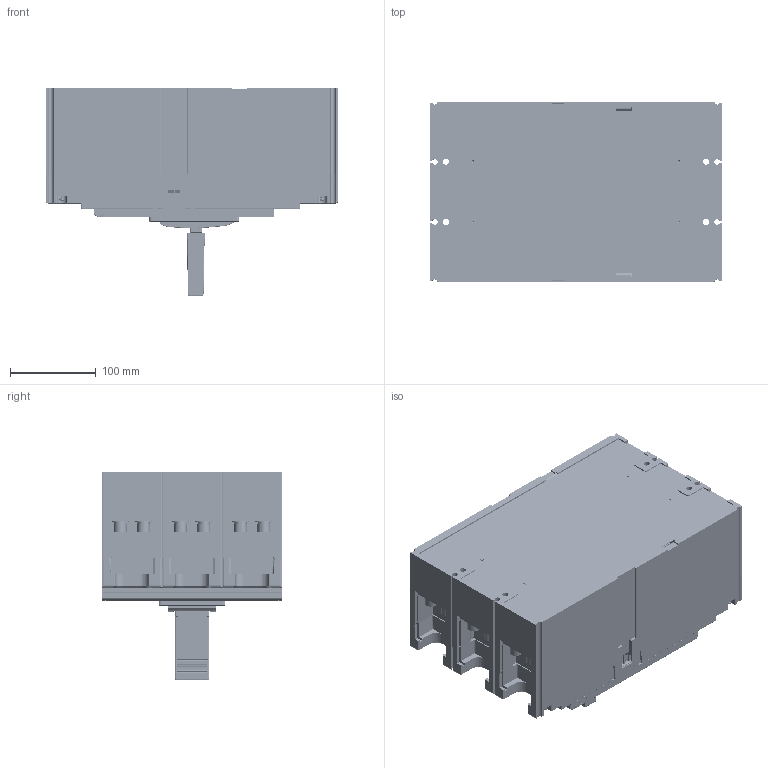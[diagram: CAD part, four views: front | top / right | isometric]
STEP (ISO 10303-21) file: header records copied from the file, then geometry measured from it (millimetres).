
FILE_DESCRIPTION(/* description */ (''),/* implementation_level */ '2;1');
FILE_NAME(/* name */ 'CMM-1600-3P-Drawing-3D.stp',/* time_stamp */ '2025-07-08T09:50:04-03:00',/* author */ ('guilh'),/* organization */ (''),/* preprocessor_version */ 'ST-DEVELOPER v20',/* originating_system */ 'Autodesk Inventor 2024',/* authorisation */ '');
FILE_SCHEMA (('AUTOMOTIVE_DESIGN { 1 0 10303 214 3 1 1 }'));
Products named in the file (51): YCM8-1600-3P-Drawing-3D; YCM8-1600-3P-Drawing-3D.sldasm-Part-1; YCM8-1600-3P-Drawing-3D.sldasm-Part-2; YCM8-1600-3P-Drawing-3D.sldasm-Part-3; PRT0873.stp; PRT0873.stp-1; 207-8STM-865-3805.stp; 61-8STM_751_3801_PRT.stp; 30-5TZM-253-3801.stp; 26-8STM_750_3802_PRT_1_1.stp; 26-8STM_750_3802_PRT_1_1.stp-1; PRT0873.stp-2; 26-8STM_750_3802_PRT_1_1.stp-2; 61-8STM_751_3801_PRT.stp-1; 38-8STM-253-3802.stp; 61-8STM_751_3801_PRT.stp-2; 67-8STM-750-3804.stp; 8STM-550-3818__________10MM__.stp; 67-8STM-750-3804.stp-1; 8STM-550-3818__________10MM__.stp-1; 8STM-550-3818__________10MM__.stp-2; 67-8STM-750-3804.stp-2; 1-5STM-024-3801-1.stp; YCM8-1250-3P-Drawing-3D.sldasm-Part-89; ×°ÅäÌå10^YCM8-1600-3P-Drawing
-3D; ×°ÅäÌå10^YCM8-1600-3P-Drawing
-3D_1; ×°ÅäÌå10^YCM8-1600-3P-Drawing
-3D_2; 54_8STM_776_3801____3P.stp; ×°ÅäÌå10^YCM8-1600-3P-Drawing
-3D_3; ×°ÅäÌå12^YCM8-1600-3P-Drawing
-3D; ×°ÅäÌå12^YCM8-1600-3P-Drawing
-3D_1; ×°ÅäÌå12^YCM8-1600-3P-Drawing
-3D_2; ×°ÅäÌå12^YCM8-1600-3P-Drawing
-3D_3; ×°ÅäÌå12^YCM8-1600-3P-Drawing
-3D_4; ×°ÅäÌå12^YCM8-1600-3P-Drawing
-3D_5; ×°ÅäÌå12^YCM8-1600-3P-Drawing
-3D_6; ×°ÅäÌå12^YCM8-1600-3P-Drawing
-3D_7; ×°ÅäÌå12^YCM8-1600-3P-Drawing
-3D_8; ×°ÅäÌå12^YCM8-1600-3P-Drawing
-3D_9; ×°ÅäÌå12^YCM8-1600-3P-Drawing
-3D_10 ...
Assembly tree (104 placements, depth 3):
  YCM8-1600-3P-Drawing-3D
    YCM8-1600-3P-Drawing-3D.sldasm-Part-1
    YCM8-1600-3P-Drawing-3D.sldasm-Part-2
    YCM8-1600-3P-Drawing-3D.sldasm-Part-3
    PRT0873.stp
    PRT0873.stp-1
    207-8STM-865-3805.stp
    61-8STM_751_3801_PRT.stp
    30-5TZM-253-3801.stp
    26-8STM_750_3802_PRT_1_1.stp
    26-8STM_750_3802_PRT_1_1.stp-1
    PRT0873.stp-2
    26-8STM_750_3802_PRT_1_1.stp-2
    61-8STM_751_3801_PRT.stp-1
    38-8STM-253-3802.stp
    61-8STM_751_3801_PRT.stp-2
    67-8STM-750-3804.stp
    8STM-550-3818__________10MM__.stp
    67-8STM-750-3804.stp-1
    8STM-550-3818__________10MM__.stp-1
    8STM-550-3818__________10MM__.stp-2
    67-8STM-750-3804.stp-2
    1-5STM-024-3801-1.stp
    YCM8-1250-3P-Drawing-3D.sldasm-Part-89
    ×°ÅäÌå10^YCM8-1600-3P-Drawing
-3D
      YCM8-1250-3P-Drawing-3D.sldasm-Part-94
      YCM8-1250-3P-Drawing-3D.sldasm-Part-93
      YCM8-1250-3P-Drawing-3D.sldasm-Part-97
    ×°ÅäÌå10^YCM8-1600-3P-Drawing
-3D_1
      YCM8-1250-3P-Drawing-3D.sldasm-Part-94
      YCM8-1250-3P-Drawing-3D.sldasm-Part-93
      YCM8-1250-3P-Drawing-3D.sldasm-Part-97
    ×°ÅäÌå10^YCM8-1600-3P-Drawing
-3D_2
      YCM8-1250-3P-Drawing-3D.sldasm-Part-94
      YCM8-1250-3P-Drawing-3D.sldasm-Part-93
      YCM8-1250-3P-Drawing-3D.sldasm-Part-97
    54_8STM_776_3801____3P.stp
    ×°ÅäÌå10^YCM8-1600-3P-Drawing
-3D_3
      YCM8-1250-3P-Drawing-3D.sldasm-Part-94
      YCM8-1250-3P-Drawing-3D.sldasm-Part-93
      YCM8-1250-3P-Drawing-3D.sldasm-Part-97
    ×°ÅäÌå12^YCM8-1600-3P-Drawing
-3D
      YCM8-1250-3P-Drawing-3D.sldasm-Part-33
      YCM8-1250-3P-Drawing-3D.sldasm-Part-30
      YCM8-1250-3P-Drawing-3D.sldasm-Part-9
    ×°ÅäÌå12^YCM8-1600-3P-Drawing
-3D_1
      YCM8-1250-3P-Drawing-3D.sldasm-Part-33
      YCM8-1250-3P-Drawing-3D.sldasm-Part-30
      YCM8-1250-3P-Drawing-3D.sldasm-Part-9
    ×°ÅäÌå12^YCM8-1600-3P-Drawing
-3D_2
      YCM8-1250-3P-Drawing-3D.sldasm-Part-33
      YCM8-1250-3P-Drawing-3D.sldasm-Part-30
      YCM8-1250-3P-Drawing-3D.sldasm-Part-9
    ×°ÅäÌå12^YCM8-1600-3P-Drawing
-3D_3
      YCM8-1250-3P-Drawing-3D.sldasm-Part-33
      YCM8-1250-3P-Drawing-3D.sldasm-Part-30
      YCM8-1250-3P-Drawing-3D.sldasm-Part-9
    ×°ÅäÌå12^YCM8-1600-3P-Drawing
-3D_4
      YCM8-1250-3P-Drawing-3D.sldasm-Part-33
      YCM8-1250-3P-Drawing-3D.sldasm-Part-30
Bounding box: 340 x 210 x 242.81 mm (x, y, z)
Volume: 3646218.6 mm3; surface area: 1305157.6 mm2
Topology: 84 solids, 88 shells, 16489 faces, 41686 edges, 27060 vertices
Faces by surface type: plane 13336, cylinder 2210, sphere 350, bspline 247, torus 225, cone 121
Full cylindrical faces by diameter (mm): 1.75 x2, 2.4 x4, 2.754 x200, 2.9 x1, 3 x11, 3.15 x8, 3.3 x6, 3.354 x200, 3.5 x8, 3.8 x10, 4 x9, 4.2 x6, 4.3 x2, 4.6 x1, 4.7 x5, 5 x17, 5.2 x12, 5.5 x19, 5.8 x1, 5.85 x16, 6 x76, 6.1 x10, 6.3 x1, 6.5 x23, 7 x9, 7.2 x20, 7.5 x6, 8.5 x6, 9 x9, 9.4 x2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
Entity records: 484137 total; most frequent: CARTESIAN_POINT 103359, ORIENTED_EDGE 78094, DIRECTION 73730, EDGE_CURVE 39047, LINE 34274, VECTOR 34274, VERTEX_POINT 25528, AXIS2_PLACEMENT_3D 19728
